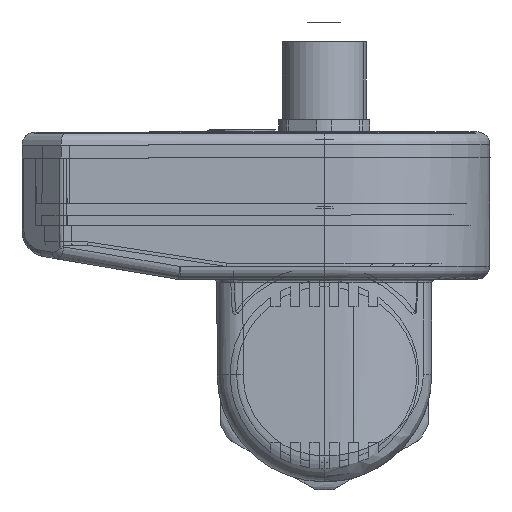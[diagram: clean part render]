
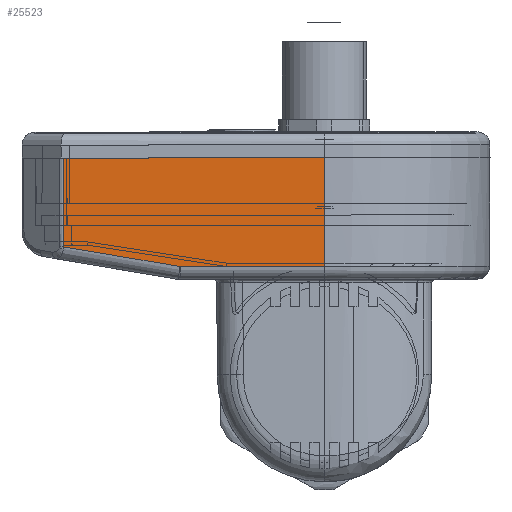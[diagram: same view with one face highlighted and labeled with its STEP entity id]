
A CAD part, left-side view. The second image highlights one B-rep face of the part: STEP entity #25523.
In plain terms, the highlighted planar face has unit normal (-1, 0, 0).
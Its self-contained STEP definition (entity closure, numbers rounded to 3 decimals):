
#1831=PLANE('',#27726);
#2765=LINE('',#38928,#4661);
#2784=LINE('',#40720,#4680);
#3045=LINE('',#46704,#4941);
#3046=LINE('',#46706,#4942);
#3055=LINE('',#46847,#4951);
#4661=VECTOR('',#31370,40.086);
#4680=VECTOR('',#31423,16.7);
#4941=VECTOR('',#32252,18.155);
#4942=VECTOR('',#32255,13.661);
#4951=VECTOR('',#32298,22.187);
#7131=FACE_OUTER_BOUND('',#8654,.T.);
#8654=EDGE_LOOP('',(#20277,#20278,#20279,#20280,#20281));
#11078=VERTEX_POINT('',#38925);
#11079=VERTEX_POINT('',#38927);
#11114=VERTEX_POINT('',#40719);
#11410=VERTEX_POINT('',#45976);
#11426=VERTEX_POINT('',#46699);
#13987=EDGE_CURVE('',#11078,#11079,#2765,.T.);
#14030=EDGE_CURVE('',#11114,#11079,#2784,.T.);
#14522=EDGE_CURVE('',#11410,#11426,#3045,.T.);
#14523=EDGE_CURVE('',#11078,#11410,#3046,.T.);
#14539=EDGE_CURVE('',#11426,#11114,#3055,.T.);
#20277=ORIENTED_EDGE('',*,*,#13987,.F.);
#20278=ORIENTED_EDGE('',*,*,#14523,.T.);
#20279=ORIENTED_EDGE('',*,*,#14522,.T.);
#20280=ORIENTED_EDGE('',*,*,#14539,.T.);
#20281=ORIENTED_EDGE('',*,*,#14030,.T.);
#25523=ADVANCED_FACE('',(#7131),#1831,.T.);
#27726=AXIS2_PLACEMENT_3D('',#46848,#32299,#32300);
#31370=DIRECTION('',(0.,-1.,0.001));
#31423=DIRECTION('',(0.,0.001,1.));
#32252=DIRECTION('',(0.,-0.986,-0.167));
#32255=DIRECTION('',(0.,-0.001,-1.));
#32298=DIRECTION('',(0.,-1.,0.001));
#32299=DIRECTION('center_axis',(-1.,0.,0.));
#32300=DIRECTION('ref_axis',(0.,-1.,0.001));
#38925=CARTESIAN_POINT('',(-156.,30.608,33.115));
#38927=CARTESIAN_POINT('',(-156.,-9.478,33.141));
#38928=CARTESIAN_POINT('',(-156.,30.608,33.115));
#40719=CARTESIAN_POINT('',(-156.,-9.489,16.441));
#40720=CARTESIAN_POINT('',(-156.,-9.489,16.441));
#45976=CARTESIAN_POINT('',(-156.,30.599,19.454));
#46699=CARTESIAN_POINT('',(-156.,12.698,16.426));
#46704=CARTESIAN_POINT('',(-156.,30.599,19.454));
#46706=CARTESIAN_POINT('',(-156.,30.608,33.115));
#46847=CARTESIAN_POINT('',(-156.,12.698,16.426));
#46848=CARTESIAN_POINT('Origin',(-156.,30.597,16.415));
